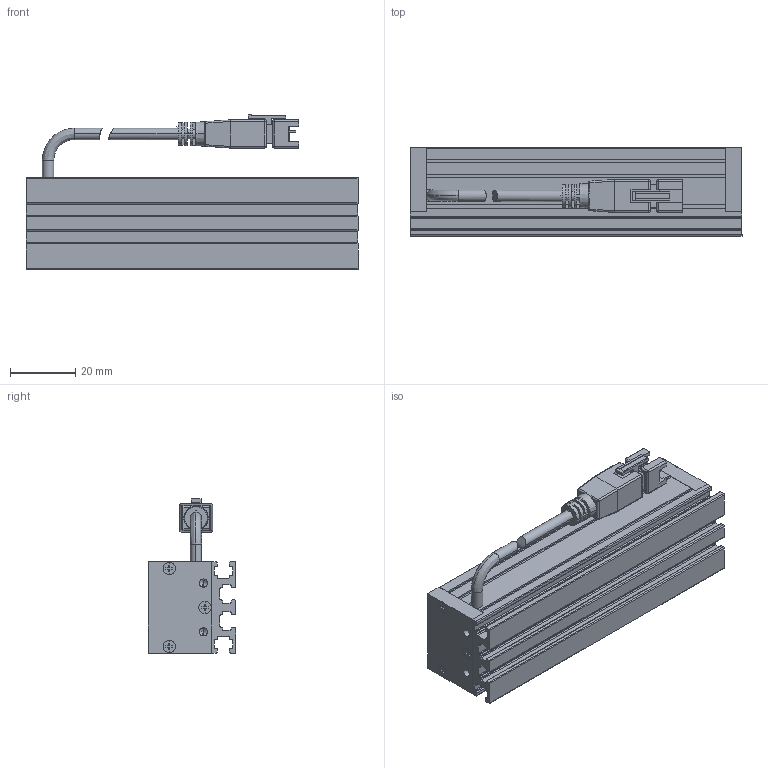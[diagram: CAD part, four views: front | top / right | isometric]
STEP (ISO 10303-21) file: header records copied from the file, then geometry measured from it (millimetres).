
FILE_DESCRIPTION (( 'STEP AP203' ), '1' );
FILE_NAME ('CK-BL10228.STEP', '2026-01-02T01:44:38', ( '' ), ( '' ), 'SwSTEP 2.0', 'SolidWorks 2022', '' );
FILE_SCHEMA (( 'CONFIG_CONTROL_DESIGN' ));
Length unit declared in the file: millimetre
Products named in the file (6): 十字沉头螺丝 M2x10; CK-BL10228-001A; CK-BL10228; 光源线-01; CK-BL10228-003A; CK-BL10228-002A
Assembly tree (11 placements, depth 2):
  CK-BL10228
    CK-BL10228-001A
    CK-BL10228-002A  x2
    CK-BL10228-003A
    光源线-01
    十字沉头螺丝 M2x10  x6
Bounding box: 102 x 27 x 47.34 mm (x, y, z)
Volume: 38015.6 mm3; surface area: 33608.5 mm2
Topology: 13 solids, 13 shells, 575 faces, 1494 edges, 950 vertices
Faces by surface type: plane 337, cylinder 172, cone 46, bspline 20
Entity records: 13997 total; most frequent: CARTESIAN_POINT 2782, ORIENTED_EDGE 2202, DIRECTION 2163, EDGE_CURVE 1101, VECTOR 781, LINE 781, VERTEX_POINT 714, AXIS2_PLACEMENT_3D 691
